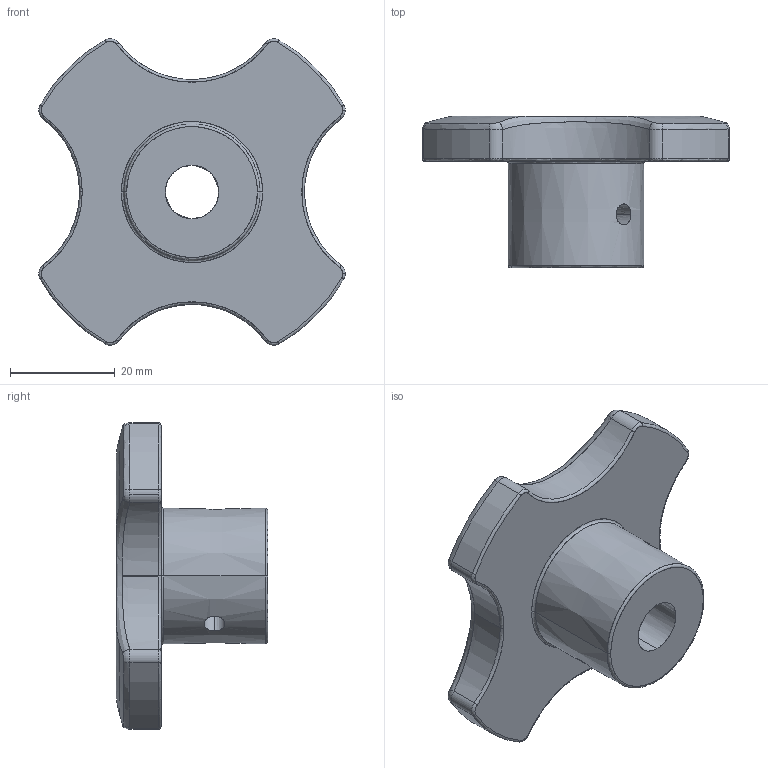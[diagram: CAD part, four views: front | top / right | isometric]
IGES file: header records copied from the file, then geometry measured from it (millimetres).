
Start section: SolidWorks IGES file using analytic representation for surfaces
Global section: file name: C:\Projetos\13.20004.IGS; native system: SolidWorks 2015; preprocessor: SolidWorks 2015; author: Ricardo; date: 171003.133548; units: millimetre
Bounding box: 58.69 x 29 x 58.69 mm (x, y, z)
Surface area: 9288.1 mm2 (no closed solid volume)
Topology: 0 solids, 0 shells, 84 faces, 1232 edges, 1228 vertices
Faces by surface type: revolution 43, bspline 41
